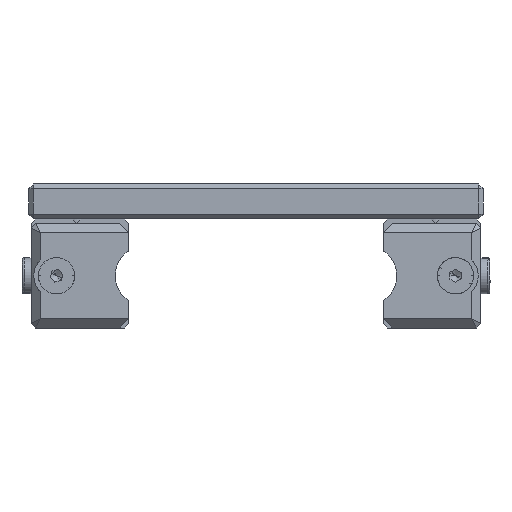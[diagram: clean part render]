
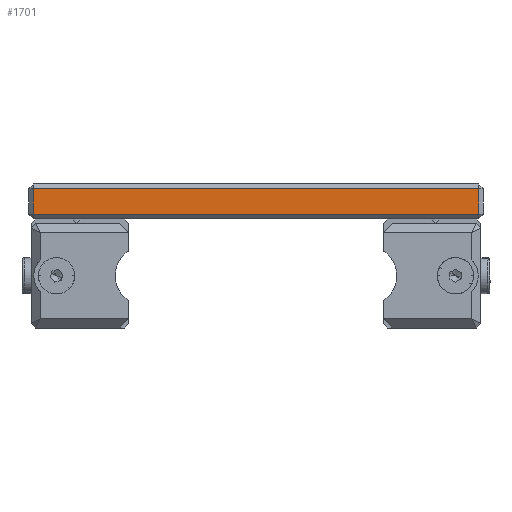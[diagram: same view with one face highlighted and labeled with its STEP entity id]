
A CAD part, left-side view. The second image highlights one B-rep face of the part: STEP entity #1701.
In plain terms, the highlighted planar face has unit normal (-1, 0, 0).
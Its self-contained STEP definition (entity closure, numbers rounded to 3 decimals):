
#1618 = ORIENTED_EDGE ( 'NONE', *, *, #1619, .T. ) ;
#1619 = EDGE_CURVE ( 'NONE', #1620, #1621, #17693, .T. ) ;
#1620 = VERTEX_POINT ( 'NONE', #17689 ) ;
#1621 = VERTEX_POINT ( 'NONE', #17688 ) ;
#1622 = ORIENTED_EDGE ( 'NONE', *, *, #1677, .T. ) ;
#1623 = VERTEX_POINT ( 'NONE', #17687 ) ;
#1677 = EDGE_CURVE ( 'NONE', #1621, #1623, #17784, .T. ) ;
#1678 = ORIENTED_EDGE ( 'NONE', *, *, #1679, .T. ) ;
#1679 = EDGE_CURVE ( 'NONE', #1623, #1680, #17780, .T. ) ;
#1680 = VERTEX_POINT ( 'NONE', #17776 ) ;
#1681 = ORIENTED_EDGE ( 'NONE', *, *, #1682, .T. ) ;
#1682 = EDGE_CURVE ( 'NONE', #1680, #1620, #17775, .T. ) ;
#1701 = ADVANCED_FACE ( 'NONE', ( #17803 ), #17802, .T. ) ;
#1702 = EDGE_LOOP ( 'NONE', ( #1618, #1622, #1678, #1681 ) ) ;
#17687 = CARTESIAN_POINT ( 'NONE',  ( -100., -49., -6.7 ) ) ;
#17688 = CARTESIAN_POINT ( 'NONE',  ( -100., 49., -6.7 ) ) ;
#17689 = CARTESIAN_POINT ( 'NONE',  ( -100., 49., -1. ) ) ;
#17690 = DIRECTION ( 'NONE',  ( 0., 0., -1. ) ) ;
#17691 = VECTOR ( 'NONE', #17690, 1000. ) ;
#17692 = CARTESIAN_POINT ( 'NONE',  ( -100., 49., -7.7 ) ) ;
#17693 = LINE ( 'NONE', #17692, #17691 ) ;
#17772 = DIRECTION ( 'NONE',  ( 0., 1., 0. ) ) ;
#17773 = VECTOR ( 'NONE', #17772, 1000. ) ;
#17774 = CARTESIAN_POINT ( 'NONE',  ( -100., 50., -1. ) ) ;
#17775 = LINE ( 'NONE', #17774, #17773 ) ;
#17776 = CARTESIAN_POINT ( 'NONE',  ( -100., -49., -1. ) ) ;
#17777 = DIRECTION ( 'NONE',  ( 0., 0., 1. ) ) ;
#17778 = VECTOR ( 'NONE', #17777, 1000. ) ;
#17779 = CARTESIAN_POINT ( 'NONE',  ( -100., -49., -7.7 ) ) ;
#17780 = LINE ( 'NONE', #17779, #17778 ) ;
#17781 = DIRECTION ( 'NONE',  ( 0., -1., 0. ) ) ;
#17782 = VECTOR ( 'NONE', #17781, 1000. ) ;
#17783 = CARTESIAN_POINT ( 'NONE',  ( -100., -50., -6.7 ) ) ;
#17784 = LINE ( 'NONE', #17783, #17782 ) ;
#17798 = DIRECTION ( 'NONE',  ( 0., 0., 1. ) ) ;
#17799 = DIRECTION ( 'NONE',  ( -1., 0., 0. ) ) ;
#17800 = CARTESIAN_POINT ( 'NONE',  ( -100., 50., -7.7 ) ) ;
#17801 = AXIS2_PLACEMENT_3D ( 'NONE', #17800, #17799, #17798 ) ;
#17802 = PLANE ( 'NONE',  #17801 ) ;
#17803 = FACE_OUTER_BOUND ( 'NONE', #1702, .T. ) ;
